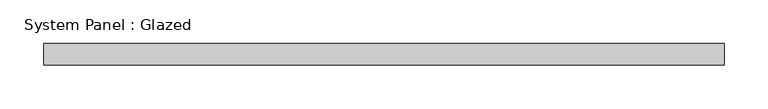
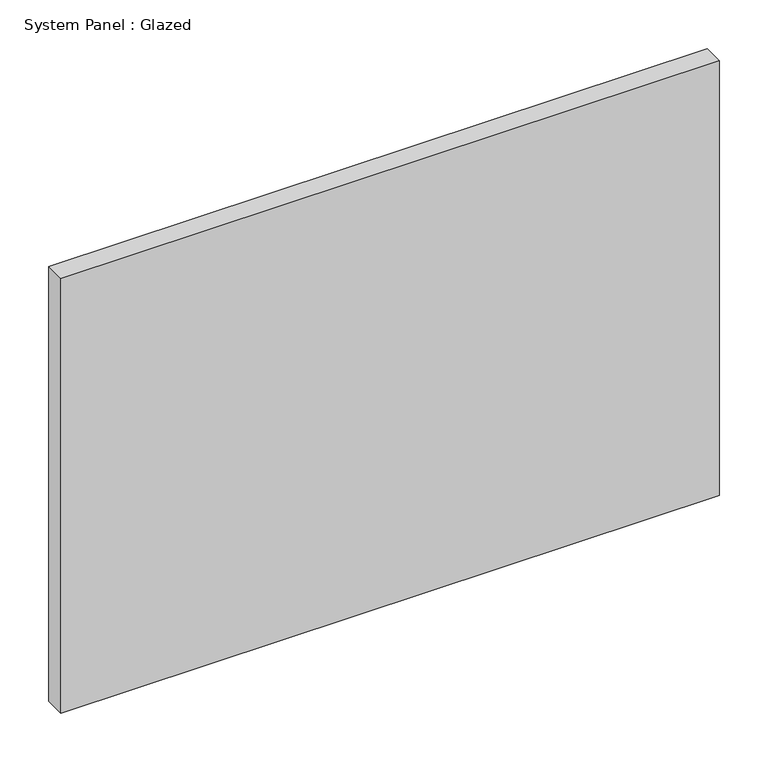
"""IFC4 building model written with IfcOpenShell, lengths in millimetres: plate geometry, System Panel : Glazed."""

from ifc_helpers import new_model, si_unit, origin, origin_with_axes, place, context, project, spatial, polyline, outline, extrude, source, transform, mapped, element, save


def system_panel_glazed_ac2dccf3(model_context):
    return source(origin(), model_context, "Body", "SweptSolid", [
        extrude(outline(polyline([(390.0, -12.5), (-390.0, -12.5), (-390.0, 12.5), (390.0, 12.5), (390.0, -12.5)])), origin_with_axes(), (0.0, 0.0, 1.0), 544.6621432),
    ])


if __name__ == "__main__":
    model = new_model("IFC4")
    model_context = context("Model", 3, world=origin())
    ifc_project = project(units=[si_unit("LENGTHUNIT", "METRE", prefix="MILLI")], contexts=[model_context])
    site = spatial("IfcSite", under=ifc_project)
    building = spatial("IfcBuilding", under=site)
    placement = place(None, origin())
    system_panel_glazed_shape = system_panel_glazed_ac2dccf3(model_context)
    element("IfcPlate", 1, ObjectType="System Panel : Glazed", at=placement, inside=building, context=model_context, shape_type="MappedRepresentation", body=[
        mapped(system_panel_glazed_shape, transform((0.0, 0.0, 0.0), x_axis=(1.0, 0.0, 0.0), y_axis=(0.0, 1.0, 0.0), z_axis=(0.0, 0.0, 1.0))),
    ])
    save(model, "model.ifc")
